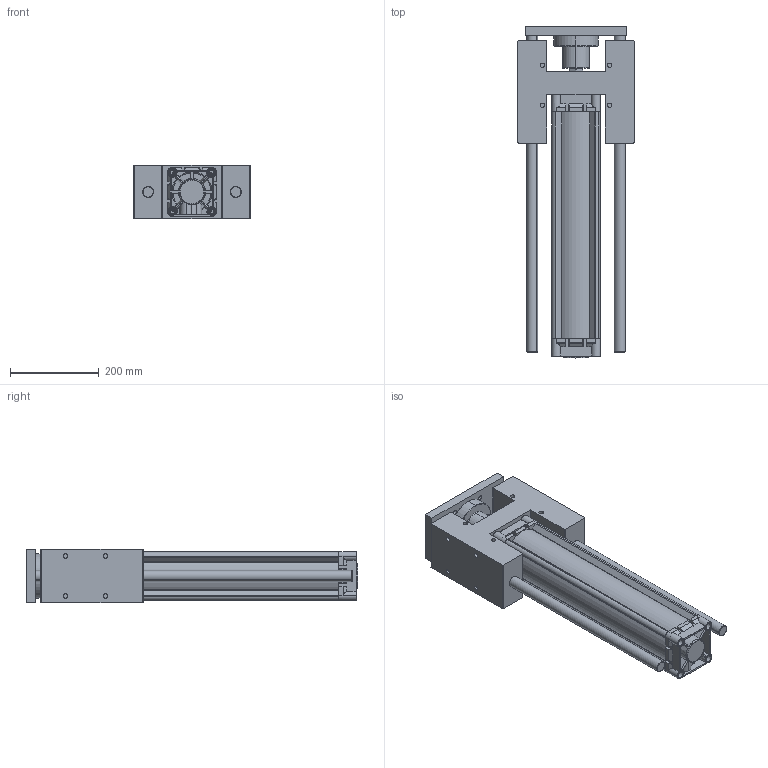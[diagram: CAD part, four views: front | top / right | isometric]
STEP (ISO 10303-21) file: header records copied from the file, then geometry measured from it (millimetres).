
FILE_DESCRIPTION (( 'STEP AP203' ), '1' );
FILE_NAME ('MDNC100X450H-YATAK.STEP', '2016-05-23T08:59:41', ( 'user' ), ( '' ), 'SwSTEP 2.0', 'SolidWorks 2013', '' );
FILE_SCHEMA (( 'CONFIG_CONTROL_DESIGN' ));
Length unit declared in the file: millimetre
Products named in the file (11): SOMUN 100; DNC-H-YATAK M尳 100x450; MDNC100X450H-YATAK; DNC-H-YATAK TABLA 100; DNC-H-YATAK MÝL YATAÐI 100; ARKA KAPAK  100; MDNC 100X450 BORU; ORTA PÝSTON 100; 烰 KAPAK  100; Piston Mili 100x450; DNC-H-YATAK 100
Assembly tree (11 placements, depth 2):
  MDNC100X450H-YATAK
    DNC-H-YATAK 100
    DNC-H-YATAK M尳 100x450  x2
    DNC-H-YATAK TABLA 100
    DNC-H-YATAK MÝL YATAÐI 100
    ARKA KAPAK  100
    MDNC 100X450 BORU
    ORTA PÝSTON 100
    烰 KAPAK  100
    Piston Mili 100x450
    SOMUN 100
Bounding box: 262 x 746.2 x 120.5 mm (x, y, z)
Volume: 7497051.2 mm3; surface area: 1272471.8 mm2
Topology: 11 solids, 11 shells, 1241 faces, 3092 edges, 1951 vertices
Faces by surface type: cylinder 535, plane 356, cone 192, bspline 146, torus 12
Entity records: 50967 total; most frequent: CARTESIAN_POINT 21961, ORIENTED_EDGE 6132, DIRECTION 5307, EDGE_CURVE 3066, AXIS2_PLACEMENT_3D 2076, VERTEX_POINT 1943, EDGE_LOOP 1403, ADVANCED_FACE 1233
